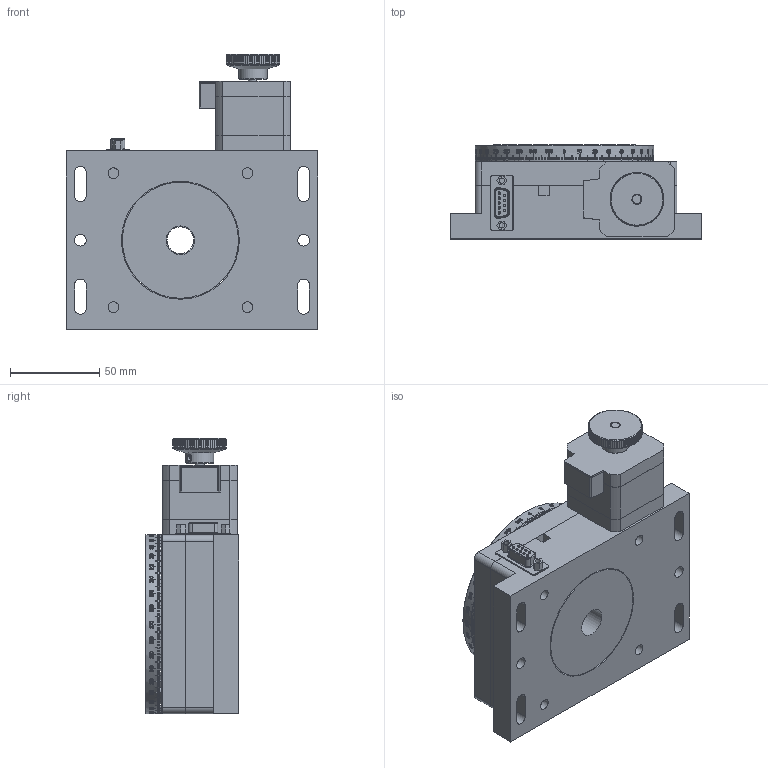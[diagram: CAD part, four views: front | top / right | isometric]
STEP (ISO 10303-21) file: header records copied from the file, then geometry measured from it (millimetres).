
FILE_DESCRIPTION (( 'STEP AP203' ), '1' );
FILE_NAME ('MR-100.step', '2017-01-10T10:31:33', ( '¦K¬P' ), ( '' ), 'SwSTEP 2.0', 'SolidWorks 2012', '' );
FILE_SCHEMA (( 'CONFIG_CONTROL_DESIGN' ));
Products named in the file (1): MR-100
Bounding box: 141 x 52.5 x 154 mm (x, y, z)
Surface area: 97408.4 mm2 (no closed solid volume)
Topology: 0 solids, 151 shells, 965 faces, 7242 edges, 6032 vertices
Faces by surface type: cylinder 528, plane 360, cone 37, bspline 29, torus 11
Full cylindrical faces by diameter (mm): 1 x5, 1.04 x9, 3 x2, 4 x15, 5 x1, 6 x19, 6.5 x2, 7 x1, 8 x6, 10 x1, 11 x2, 15 x1, 15.8 x1, 16 x1, 65 x1, 66 x1, 100 x1
Entity records: 108757 total; most frequent: CARTESIAN_POINT 59670, ORIENTED_EDGE 9072, DIRECTION 9004, EDGE_CURVE 7104, VERTEX_POINT 6002, AXIS2_PLACEMENT_3D 3075, VECTOR 2854, LINE 2854
